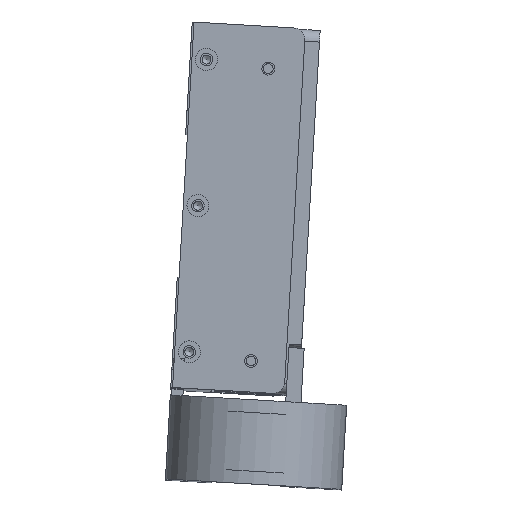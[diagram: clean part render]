
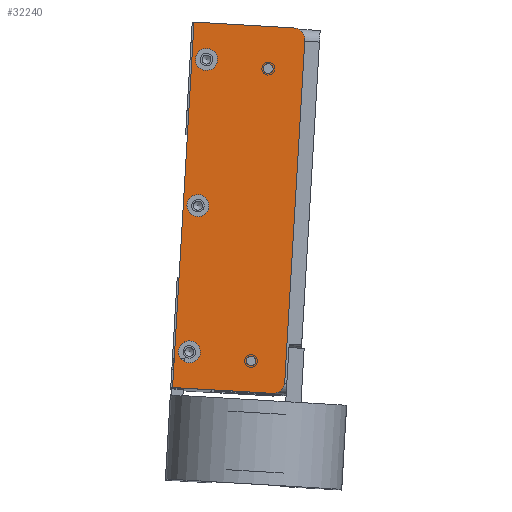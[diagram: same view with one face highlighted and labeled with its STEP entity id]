
A CAD part, top view. The second image highlights one B-rep face of the part: STEP entity #32240.
In plain terms, the highlighted planar face has unit normal (0, 0, 1) as drawn and (0, -1, 0) by its records, which use the part's own axes.
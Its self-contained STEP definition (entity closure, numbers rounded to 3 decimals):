
#963=PLANE($,#35134);
#2079=FACE_BOUND($,#5721,.T.);
#2080=FACE_BOUND($,#5722,.T.);
#2081=FACE_BOUND($,#5723,.T.);
#2082=FACE_BOUND($,#5724,.T.);
#2083=FACE_BOUND($,#5725,.T.);
#2084=FACE_BOUND($,#5726,.T.);
#5721=EDGE_LOOP($,(#26014));
#5722=EDGE_LOOP($,(#26015));
#5723=EDGE_LOOP($,(#26016));
#5724=EDGE_LOOP($,(#26017));
#5725=EDGE_LOOP($,(#26018));
#5726=EDGE_LOOP($,(#26019,#26020,#26021,#26022,#26023,#26024));
#8109=LINE($,#51648,#10922);
#8112=LINE($,#51664,#10925);
#8113=LINE($,#51666,#10926);
#8114=LINE($,#51668,#10927);
#10922=VECTOR($,#41560,93.65);
#10925=VECTOR($,#41575,27.325);
#10926=VECTOR($,#41576,100.);
#10927=VECTOR($,#41577,27.325);
#13651=CIRCLE($,#35131,3.175);
#13653=CIRCLE($,#35135,3.);
#13654=CIRCLE($,#35136,3.);
#13655=CIRCLE($,#35137,3.);
#13656=CIRCLE($,#35138,1.321);
#13657=CIRCLE($,#35139,1.321);
#13658=CIRCLE($,#35140,3.175);
#15636=VERTEX_POINT($,#51638);
#15637=VERTEX_POINT($,#51639);
#15640=VERTEX_POINT($,#51647);
#15642=VERTEX_POINT($,#51653);
#15643=VERTEX_POINT($,#51655);
#15644=VERTEX_POINT($,#51657);
#15645=VERTEX_POINT($,#51659);
#15646=VERTEX_POINT($,#51661);
#15647=VERTEX_POINT($,#51663);
#15648=VERTEX_POINT($,#51665);
#15649=VERTEX_POINT($,#51667);
#19401=EDGE_CURVE($,#15636,#15637,#13651,.T.);
#19405=EDGE_CURVE($,#15637,#15640,#8109,.T.);
#19408=EDGE_CURVE($,#15642,#15642,#13653,.T.);
#19409=EDGE_CURVE($,#15643,#15643,#13654,.T.);
#19410=EDGE_CURVE($,#15644,#15644,#13655,.T.);
#19411=EDGE_CURVE($,#15645,#15645,#13656,.T.);
#19412=EDGE_CURVE($,#15646,#15646,#13657,.T.);
#19413=EDGE_CURVE($,#15636,#15647,#8112,.T.);
#19414=EDGE_CURVE($,#15647,#15648,#8113,.T.);
#19415=EDGE_CURVE($,#15648,#15649,#8114,.T.);
#19416=EDGE_CURVE($,#15640,#15649,#13658,.T.);
#26014=ORIENTED_EDGE($,*,*,#19408,.T.);
#26015=ORIENTED_EDGE($,*,*,#19409,.T.);
#26016=ORIENTED_EDGE($,*,*,#19410,.T.);
#26017=ORIENTED_EDGE($,*,*,#19411,.T.);
#26018=ORIENTED_EDGE($,*,*,#19412,.T.);
#26019=ORIENTED_EDGE($,*,*,#19401,.F.);
#26020=ORIENTED_EDGE($,*,*,#19413,.T.);
#26021=ORIENTED_EDGE($,*,*,#19414,.T.);
#26022=ORIENTED_EDGE($,*,*,#19415,.T.);
#26023=ORIENTED_EDGE($,*,*,#19416,.F.);
#26024=ORIENTED_EDGE($,*,*,#19405,.F.);
#32240=ADVANCED_FACE($,(#2079,#2080,#2081,#2082,#2083,#2084),#963,.T.);
#35131=AXIS2_PLACEMENT_3D($,#51640,#41552,#41553);
#35134=AXIS2_PLACEMENT_3D($,#51652,#41563,#41564);
#35135=AXIS2_PLACEMENT_3D($,#51654,#41565,#41566);
#35136=AXIS2_PLACEMENT_3D($,#51656,#41567,#41568);
#35137=AXIS2_PLACEMENT_3D($,#51658,#41569,#41570);
#35138=AXIS2_PLACEMENT_3D($,#51660,#41571,#41572);
#35139=AXIS2_PLACEMENT_3D($,#51662,#41573,#41574);
#35140=AXIS2_PLACEMENT_3D($,#51669,#41578,#41579);
#41552=DIRECTION('center_axis',(0.,1.,0.));
#41553=DIRECTION('ref_axis',(0.707,0.,0.707));
#41560=DIRECTION($,(0.,0.,-1.));
#41563=DIRECTION('center_axis',(0.,-1.,0.));
#41564=DIRECTION('ref_axis',(0.,0.,-1.));
#41565=DIRECTION('center_axis',(0.,1.,0.));
#41566=DIRECTION('ref_axis',(1.,0.,0.));
#41567=DIRECTION('center_axis',(0.,1.,0.));
#41568=DIRECTION('ref_axis',(1.,0.,0.));
#41569=DIRECTION('center_axis',(0.,1.,0.));
#41570=DIRECTION('ref_axis',(1.,0.,0.));
#41571=DIRECTION('center_axis',(0.,1.,0.));
#41572=DIRECTION('ref_axis',(1.,0.,0.));
#41573=DIRECTION('center_axis',(0.,1.,0.));
#41574=DIRECTION('ref_axis',(1.,0.,0.));
#41575=DIRECTION($,(-1.,0.,0.));
#41576=DIRECTION($,(0.,0.,-1.));
#41577=DIRECTION($,(1.,0.,0.));
#41578=DIRECTION('center_axis',(0.,1.,0.));
#41579=DIRECTION('ref_axis',(0.707,0.,-0.707));
#51638=CARTESIAN_POINT('',(12.075,-2.5,50.));
#51639=CARTESIAN_POINT('',(15.25,-2.5,46.825));
#51640=CARTESIAN_POINT('Origin',(12.075,-2.5,46.825));
#51647=CARTESIAN_POINT('',(15.25,-2.5,-46.825));
#51648=CARTESIAN_POINT($,(15.25,-2.5,0.));
#51652=CARTESIAN_POINT('Origin',(15.25,-2.5,0.));
#51653=CARTESIAN_POINT('',(-8.25,-2.5,0.));
#51654=CARTESIAN_POINT('Origin',(-11.25,-2.5,0.));
#51655=CARTESIAN_POINT('',(-8.25,-2.5,40.));
#51656=CARTESIAN_POINT('Origin',(-11.25,-2.5,40.));
#51657=CARTESIAN_POINT('',(-8.25,-2.5,-40.));
#51658=CARTESIAN_POINT('Origin',(-11.25,-2.5,-40.));
#51659=CARTESIAN_POINT('',(7.071,-2.5,38.5));
#51660=CARTESIAN_POINT('Origin',(5.75,-2.5,38.5));
#51661=CARTESIAN_POINT('',(7.037,-2.5,-41.5));
#51662=CARTESIAN_POINT('Origin',(5.716,-2.5,-41.5));
#51663=CARTESIAN_POINT('',(-15.25,-2.5,50.));
#51664=CARTESIAN_POINT($,(15.25,-2.5,50.));
#51665=CARTESIAN_POINT('',(-15.25,-2.5,-50.));
#51666=CARTESIAN_POINT($,(-15.25,-2.5,0.));
#51667=CARTESIAN_POINT('',(12.075,-2.5,-50.));
#51668=CARTESIAN_POINT($,(15.25,-2.5,-50.));
#51669=CARTESIAN_POINT('Origin',(12.075,-2.5,-46.825));
